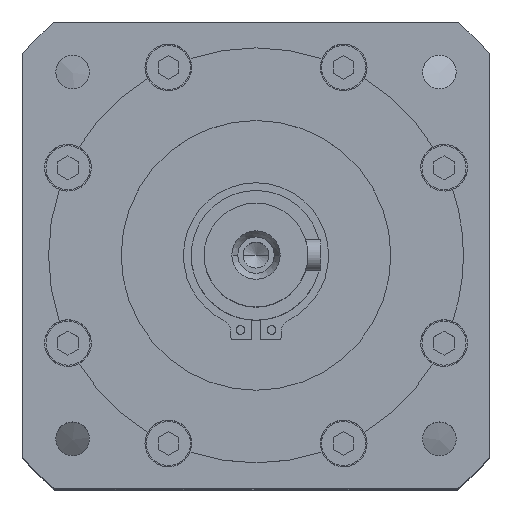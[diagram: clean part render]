
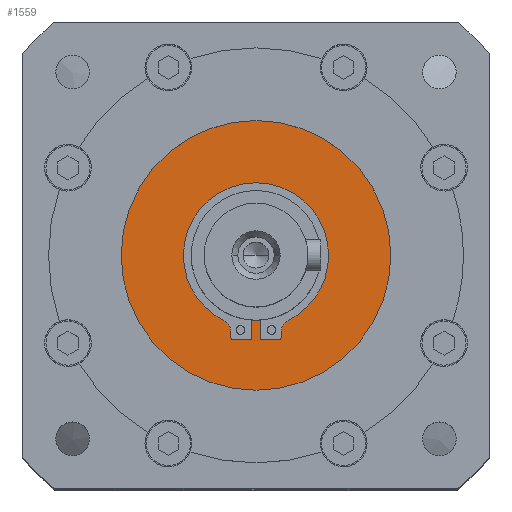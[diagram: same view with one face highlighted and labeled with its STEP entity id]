
A CAD part, top view. The second image highlights one B-rep face of the part: STEP entity #1559.
In plain terms, the highlighted planar face has unit normal (0, 0, 1).
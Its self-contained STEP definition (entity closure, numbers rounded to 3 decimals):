
#432 = ORIENTED_EDGE ( 'NONE', *, *, #20546, .F. ) ;
#570 = CARTESIAN_POINT ( 'NONE',  ( 0.85, -12.471, -2.5 ) ) ;
#802 = DIRECTION ( 'NONE',  ( 0., 0., 1. ) ) ;
#978 = DIRECTION ( 'NONE',  ( 0., 0., 1. ) ) ;
#1049 = ORIENTED_EDGE ( 'NONE', *, *, #37243, .T. ) ;
#1559 = ADVANCED_FACE ( 'NONE', ( #11418, #40134 ), #17292, .F. ) ;
#1588 = DIRECTION ( 'NONE',  ( 0., 1., 0. ) ) ;
#1653 = ORIENTED_EDGE ( 'NONE', *, *, #32588, .F. ) ;
#2092 = ORIENTED_EDGE ( 'NONE', *, *, #29598, .F. ) ;
#3040 = DIRECTION ( 'NONE',  ( 0., 0., -1. ) ) ;
#3179 = CARTESIAN_POINT ( 'NONE',  ( -4.35, -16.271, -2.5 ) ) ;
#3914 = CARTESIAN_POINT ( 'NONE',  ( -14., 0., -2.5 ) ) ;
#4000 = AXIS2_PLACEMENT_3D ( 'NONE', #39063, #17497, #42686 ) ;
#4022 = ORIENTED_EDGE ( 'NONE', *, *, #34308, .F. ) ;
#4907 = EDGE_LOOP ( 'NONE', ( #10614, #1049 ) ) ;
#4915 = CIRCLE ( 'NONE', #21952, 26. ) ;
#5274 = VERTEX_POINT ( 'NONE', #36776 ) ;
#5344 = CARTESIAN_POINT ( 'NONE',  ( 0., 0., -2.5 ) ) ;
#5392 = CARTESIAN_POINT ( 'NONE',  ( -0.85, 0., -2.5 ) ) ;
#6199 = EDGE_CURVE ( 'NONE', #18603, #42681, #30786, .T. ) ;
#7740 = VERTEX_POINT ( 'NONE', #12497 ) ;
#8795 = CARTESIAN_POINT ( 'NONE',  ( 26., 0., -2.5 ) ) ;
#8856 = CIRCLE ( 'NONE', #41857, 0.5 ) ;
#8939 = DIRECTION ( 'NONE',  ( 1., 0., 0. ) ) ;
#8955 = VERTEX_POINT ( 'NONE', #13190 ) ;
#9042 = VERTEX_POINT ( 'NONE', #3179 ) ;
#9167 = DIRECTION ( 'NONE',  ( 0., 0., 1. ) ) ;
#9733 = CARTESIAN_POINT ( 'NONE',  ( -4.35, -15.771, -2.5 ) ) ;
#10614 = ORIENTED_EDGE ( 'NONE', *, *, #11227, .T. ) ;
#10915 = LINE ( 'NONE', #29335, #39631 ) ;
#11037 = CARTESIAN_POINT ( 'NONE',  ( 4.35, -16.271, -2.5 ) ) ;
#11227 = EDGE_CURVE ( 'NONE', #39687, #7740, #46112, .T. ) ;
#11418 = FACE_BOUND ( 'NONE', #32498, .T. ) ;
#11649 = CARTESIAN_POINT ( 'NONE',  ( -4.85, -14.773, -2.5 ) ) ;
#12403 = LINE ( 'NONE', #19863, #38861 ) ;
#12497 = CARTESIAN_POINT ( 'NONE',  ( -26., 0., -2.5 ) ) ;
#12631 = DIRECTION ( 'NONE',  ( 0., -1., 0. ) ) ;
#12639 = CARTESIAN_POINT ( 'NONE',  ( 0., 0., -2.5 ) ) ;
#13190 = CARTESIAN_POINT ( 'NONE',  ( 6.236, -12.534, -2.5 ) ) ;
#13338 = DIRECTION ( 'NONE',  ( -1., 0., 0. ) ) ;
#13882 = AXIS2_PLACEMENT_3D ( 'NONE', #41041, #19477, #44645 ) ;
#14016 = VECTOR ( 'NONE', #31869, 1000. ) ;
#14657 = DIRECTION ( 'NONE',  ( 0., 0., -1. ) ) ;
#15257 = EDGE_CURVE ( 'NONE', #29263, #25261, #20516, .T. ) ;
#15473 = VERTEX_POINT ( 'NONE', #41944 ) ;
#16099 = CARTESIAN_POINT ( 'NONE',  ( 4.85, -14.773, -2.5 ) ) ;
#16224 = DIRECTION ( 'NONE',  ( -1., 0., 0. ) ) ;
#16528 = AXIS2_PLACEMENT_3D ( 'NONE', #20929, #3040, #28157 ) ;
#16769 = CARTESIAN_POINT ( 'NONE',  ( 14., 0., -2.5 ) ) ;
#17292 = PLANE ( 'NONE',  #16528 ) ;
#17497 = DIRECTION ( 'NONE',  ( 0., 0., -1. ) ) ;
#18603 = VERTEX_POINT ( 'NONE', #41288 ) ;
#18627 = DIRECTION ( 'NONE',  ( 1., 0., 0. ) ) ;
#18653 = ORIENTED_EDGE ( 'NONE', *, *, #39677, .F. ) ;
#18895 = ORIENTED_EDGE ( 'NONE', *, *, #30277, .F. ) ;
#19477 = DIRECTION ( 'NONE',  ( 0., 0., 1. ) ) ;
#19863 = CARTESIAN_POINT ( 'NONE',  ( 0.85, 0., -2.5 ) ) ;
#20209 = CARTESIAN_POINT ( 'NONE',  ( 0., 0., -2.5 ) ) ;
#20263 = LINE ( 'NONE', #43275, #38786 ) ;
#20485 = ORIENTED_EDGE ( 'NONE', *, *, #42617, .F. ) ;
#20516 = LINE ( 'NONE', #26687, #38538 ) ;
#20546 = EDGE_CURVE ( 'NONE', #25261, #8955, #34422, .T. ) ;
#20884 = EDGE_CURVE ( 'NONE', #26757, #5274, #25430, .T. ) ;
#20929 = CARTESIAN_POINT ( 'NONE',  ( 0., 0., -2.5 ) ) ;
#21707 = DIRECTION ( 'NONE',  ( 1., 0., 0. ) ) ;
#21844 = ORIENTED_EDGE ( 'NONE', *, *, #43985, .F. ) ;
#21952 = AXIS2_PLACEMENT_3D ( 'NONE', #22281, #802, #25915 ) ;
#22073 = CIRCLE ( 'NONE', #13882, 12.5 ) ;
#22281 = CARTESIAN_POINT ( 'NONE',  ( 0., 0., -2.5 ) ) ;
#22466 = CARTESIAN_POINT ( 'NONE',  ( 0., 0., -2.5 ) ) ;
#23084 = ORIENTED_EDGE ( 'NONE', *, *, #6199, .F. ) ;
#23470 = EDGE_CURVE ( 'NONE', #45797, #15473, #12403, .T. ) ;
#23801 = DIRECTION ( 'NONE',  ( -1., 0., 0. ) ) ;
#24174 = AXIS2_PLACEMENT_3D ( 'NONE', #9733, #34870, #13338 ) ;
#25211 = ORIENTED_EDGE ( 'NONE', *, *, #20884, .F. ) ;
#25261 = VERTEX_POINT ( 'NONE', #16099 ) ;
#25430 = LINE ( 'NONE', #5392, #43460 ) ;
#25915 = DIRECTION ( 'NONE',  ( 1., 0., 0. ) ) ;
#26090 = DIRECTION ( 'NONE',  ( -1., 0., 0. ) ) ;
#26687 = CARTESIAN_POINT ( 'NONE',  ( 4.85, 0., -2.5 ) ) ;
#26757 = VERTEX_POINT ( 'NONE', #45338 ) ;
#26939 = AXIS2_PLACEMENT_3D ( 'NONE', #22466, #978, #26090 ) ;
#27039 = AXIS2_PLACEMENT_3D ( 'NONE', #5344, #30450, #8939 ) ;
#27564 = AXIS2_PLACEMENT_3D ( 'NONE', #12639, #37812, #16224 ) ;
#28157 = DIRECTION ( 'NONE',  ( -1., 0., 0. ) ) ;
#28266 = CARTESIAN_POINT ( 'NONE',  ( -4.85, 0., -2.5 ) ) ;
#29263 = VERTEX_POINT ( 'NONE', #44838 ) ;
#29335 = CARTESIAN_POINT ( 'NONE',  ( 0., -16.271, -2.5 ) ) ;
#29598 = EDGE_CURVE ( 'NONE', #42826, #37676, #34555, .T. ) ;
#30277 = EDGE_CURVE ( 'NONE', #8955, #42826, #43022, .T. ) ;
#30446 = EDGE_CURVE ( 'NONE', #9042, #26757, #10915, .T. ) ;
#30450 = DIRECTION ( 'NONE',  ( 0., 0., 1. ) ) ;
#30679 = CARTESIAN_POINT ( 'NONE',  ( 4.35, -15.771, -2.5 ) ) ;
#30786 = CIRCLE ( 'NONE', #38731, 2.5 ) ;
#31869 = DIRECTION ( 'NONE',  ( 0., -1., 0. ) ) ;
#32498 = EDGE_LOOP ( 'NONE', ( #43841, #1653, #21844, #23084, #4022, #2092, #18895, #432, #44099, #32686, #20485, #35926, #18653, #25211 ) ) ;
#32588 = EDGE_CURVE ( 'NONE', #32641, #9042, #45635, .T. ) ;
#32641 = VERTEX_POINT ( 'NONE', #45884 ) ;
#32686 = ORIENTED_EDGE ( 'NONE', *, *, #37841, .F. ) ;
#34106 = DIRECTION ( 'NONE',  ( 0., 1., 0. ) ) ;
#34294 = DIRECTION ( 'NONE',  ( -1., 0., 0. ) ) ;
#34308 = EDGE_CURVE ( 'NONE', #37676, #18603, #37661, .T. ) ;
#34422 = CIRCLE ( 'NONE', #4000, 2.5 ) ;
#34555 = CIRCLE ( 'NONE', #26939, 14. ) ;
#34870 = DIRECTION ( 'NONE',  ( 0., 0., 1. ) ) ;
#35926 = ORIENTED_EDGE ( 'NONE', *, *, #23470, .F. ) ;
#36188 = CARTESIAN_POINT ( 'NONE',  ( -7.35, -14.773, -2.5 ) ) ;
#36776 = CARTESIAN_POINT ( 'NONE',  ( -0.85, -12.471, -2.5 ) ) ;
#37243 = EDGE_CURVE ( 'NONE', #7740, #39687, #4915, .T. ) ;
#37661 = CIRCLE ( 'NONE', #39683, 14. ) ;
#37676 = VERTEX_POINT ( 'NONE', #3914 ) ;
#37812 = DIRECTION ( 'NONE',  ( 0., 0., 1. ) ) ;
#37841 = EDGE_CURVE ( 'NONE', #46081, #29263, #8856, .T. ) ;
#38538 = VECTOR ( 'NONE', #1588, 1000. ) ;
#38731 = AXIS2_PLACEMENT_3D ( 'NONE', #36188, #14657, #39843 ) ;
#38786 = VECTOR ( 'NONE', #21707, 1000. ) ;
#38861 = VECTOR ( 'NONE', #12631, 1000. ) ;
#39063 = CARTESIAN_POINT ( 'NONE',  ( 7.35, -14.773, -2.5 ) ) ;
#39631 = VECTOR ( 'NONE', #18627, 1000. ) ;
#39677 = EDGE_CURVE ( 'NONE', #5274, #45797, #22073, .T. ) ;
#39683 = AXIS2_PLACEMENT_3D ( 'NONE', #20209, #45361, #23801 ) ;
#39687 = VERTEX_POINT ( 'NONE', #8795 ) ;
#39843 = DIRECTION ( 'NONE',  ( -1., 0., 0. ) ) ;
#40134 = FACE_OUTER_BOUND ( 'NONE', #4907, .T. ) ;
#41041 = CARTESIAN_POINT ( 'NONE',  ( 0., 0., -2.5 ) ) ;
#41288 = CARTESIAN_POINT ( 'NONE',  ( -6.236, -12.534, -2.5 ) ) ;
#41589 = LINE ( 'NONE', #28266, #14016 ) ;
#41857 = AXIS2_PLACEMENT_3D ( 'NONE', #30679, #9167, #34294 ) ;
#41944 = CARTESIAN_POINT ( 'NONE',  ( 0.85, -16.271, -2.5 ) ) ;
#42617 = EDGE_CURVE ( 'NONE', #15473, #46081, #20263, .T. ) ;
#42681 = VERTEX_POINT ( 'NONE', #11649 ) ;
#42686 = DIRECTION ( 'NONE',  ( -1., 0., 0. ) ) ;
#42826 = VERTEX_POINT ( 'NONE', #16769 ) ;
#43022 = CIRCLE ( 'NONE', #27564, 14. ) ;
#43275 = CARTESIAN_POINT ( 'NONE',  ( 0., -16.271, -2.5 ) ) ;
#43460 = VECTOR ( 'NONE', #34106, 1000. ) ;
#43841 = ORIENTED_EDGE ( 'NONE', *, *, #30446, .F. ) ;
#43985 = EDGE_CURVE ( 'NONE', #42681, #32641, #41589, .T. ) ;
#44099 = ORIENTED_EDGE ( 'NONE', *, *, #15257, .F. ) ;
#44645 = DIRECTION ( 'NONE',  ( -1., 0., 0. ) ) ;
#44838 = CARTESIAN_POINT ( 'NONE',  ( 4.85, -15.771, -2.5 ) ) ;
#45338 = CARTESIAN_POINT ( 'NONE',  ( -0.85, -16.271, -2.5 ) ) ;
#45361 = DIRECTION ( 'NONE',  ( 0., 0., 1. ) ) ;
#45635 = CIRCLE ( 'NONE', #24174, 0.5 ) ;
#45797 = VERTEX_POINT ( 'NONE', #570 ) ;
#45884 = CARTESIAN_POINT ( 'NONE',  ( -4.85, -15.771, -2.5 ) ) ;
#46081 = VERTEX_POINT ( 'NONE', #11037 ) ;
#46112 = CIRCLE ( 'NONE', #27039, 26. ) ;
